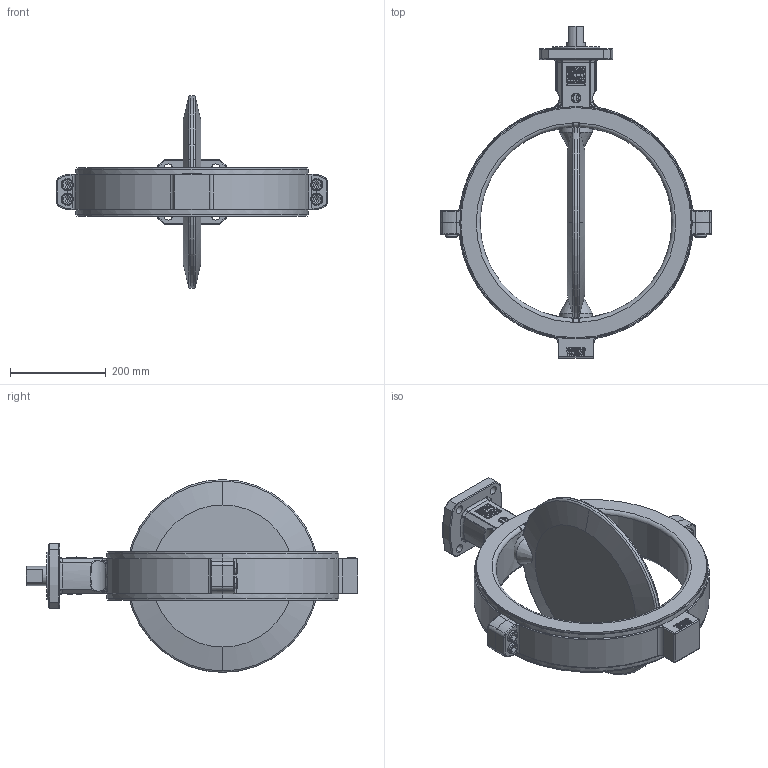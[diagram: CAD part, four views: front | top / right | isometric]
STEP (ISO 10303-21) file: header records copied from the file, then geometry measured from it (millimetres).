
FILE_DESCRIPTION((''),'2;1');
FILE_NAME('9520-00-5132_A_ASM','2014-05-05T',('SParmar1'),(''),'PRO/ENGINEER BY PARAMETRIC TECHNOLOGY CORPORATION, 2011040','PRO/ENGINEER BY PARAMETRIC TECHNOLOGY CORPORATION, 2011040','');
FILE_SCHEMA(('CONFIG_CONTROL_DESIGN'));
Products named in the file (5): 9527-18-7035; 9527_28_2114; 4111-51-1365; 4188_11_1060; 9520-00-5132_A_ASM
Assembly tree (7 placements, depth 2):
  9520-00-5132_A_ASM
    9527-18-7035
    9527_28_2114
    4111-51-1365  x4
    4188_11_1060
Bounding box: 565 x 692.1 x 402 mm (x, y, z)
Volume: 10797026.4 mm3; surface area: 1143549 mm2
Topology: 7 solids, 7 shells, 3166 faces, 8694 edges, 5714 vertices
Faces by surface type: plane 2806, cylinder 190, bspline 66, torus 50, cone 34, sphere 12, extrusion 8
Entity records: 100230 total; most frequent: CARTESIAN_POINT 21265, ORIENTED_EDGE 17108, DIRECTION 14872, EDGE_CURVE 8554, VECTOR 7886, LINE 7878, VERTEX_POINT 5639, AXIS2_PLACEMENT_3D 3493
